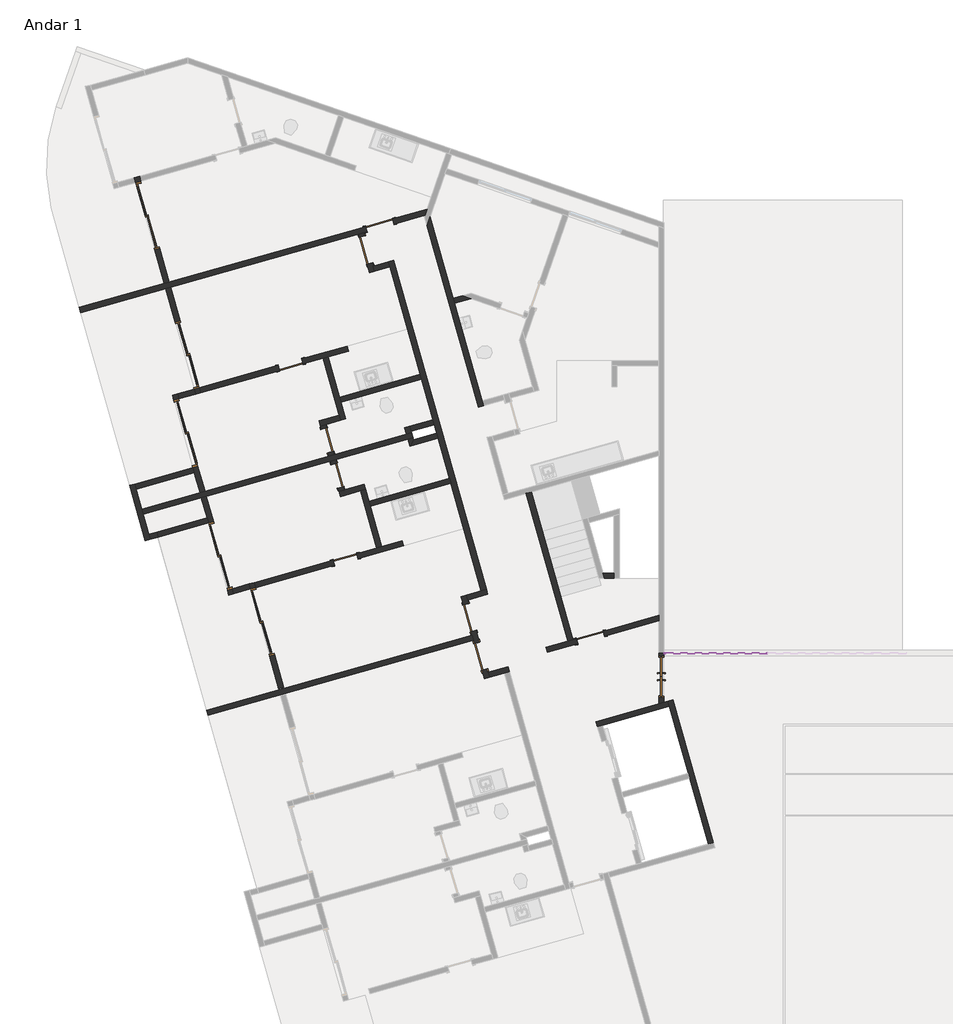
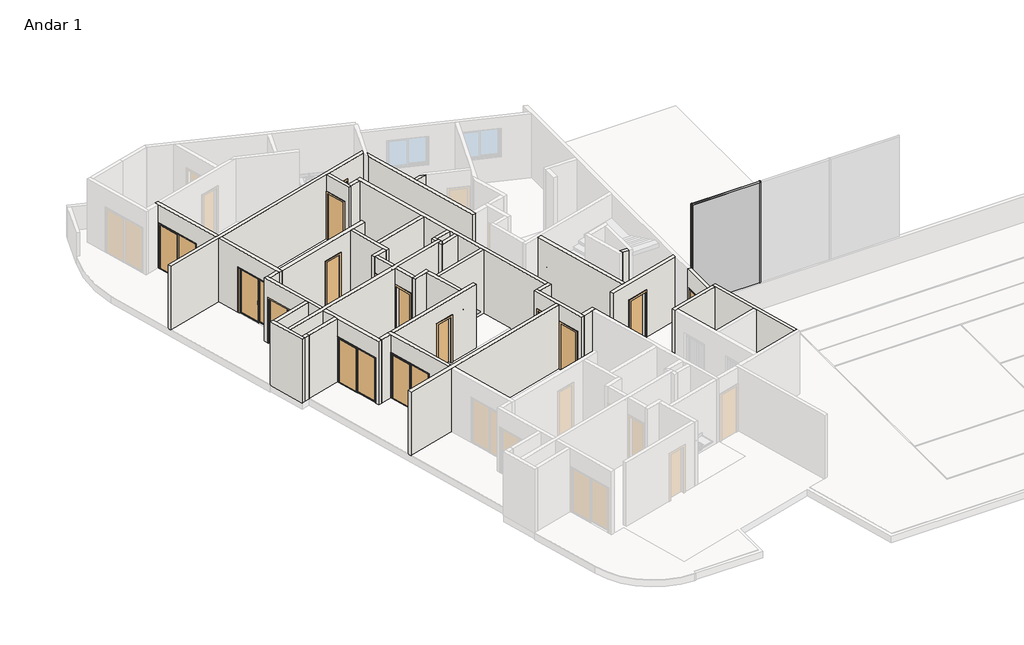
# One storey, part 2 of 4: 42 walls, 15 doors, 3 members, 1 plate.
"""IFC4 building model written with IfcOpenShell, lengths in millimetres."""

from ifc_helpers import new_model, si_unit, frame, origin, place, context, project, spatial, polyline, outline, extrude, faceted_brep, transform, mapped, element, save
from components import door_1_20_x_2_10_046a985c, p2_80cm_9d4be4ef, p2_80cm_083652d6, p3_70cm_ef4d15e3, p3_70cm_0a698c7c, p4_correr_200cm_eaaa0877, montante_retangular_montante_circular_86a469dc, montante_retangular_montante_circular_5da571e1, montante_retangular_montante_circular_c74c38fd, painel_do_sistema_adb62336

model = new_model("IFC4")

# Units and contexts
model_context = context("Model", 3, world=origin())
ifc_project = project(units=[si_unit("LENGTHUNIT", "METRE", prefix="MILLI")], contexts=[model_context])

# Site, building, storey
site = spatial("IfcSite", under=ifc_project)
building = spatial("IfcBuilding", under=site)
storey = spatial("IfcBuildingStorey", under=building, Name="Andar 1", Elevation=53650.0)

# Doors
placement = place(None, origin())
door_1_20_x_2_10_shape = door_1_20_x_2_10_046a985c(model_context)
element("IfcDoor", 1, ObjectType="Porta pivotante dupla sem revestimento : 1.20 x 2.10", at=placement, inside=storey, context=model_context, shape_type="MappedRepresentation", body=[
    mapped(door_1_20_x_2_10_shape, transform((-75072.8282189, 18002.5140353, 53650.0), x_axis=(0.0, -1.0, 0.0), y_axis=(1.0, 0.0, 0.0), z_axis=(0.0, 0.0, 1.0))),
])
p2_80cm_shape = p2_80cm_9d4be4ef(model_context)
element("IfcDoor", 2, ObjectType="M_Folha única1 : P2 - 80CM", at=placement, inside=storey, context=model_context, shape_type="MappedRepresentation", body=[
    mapped(p2_80cm_shape, transform((-83145.1128896, 30941.0402894, 53650.0), x_axis=(-0.9623628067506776, -0.2717679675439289, 0.0), y_axis=(0.2717679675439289, -0.9623628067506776, 0.0), z_axis=(0.0, 0.0, 1.0))),
])
element("IfcDoor", 3, ObjectType="M_Folha única1 : P2 - 80CM", at=placement, inside=storey, context=model_context, shape_type="MappedRepresentation", body=[
    mapped(p2_80cm_shape, transform((-80566.3456776, 19693.5423602, 53650.0), x_axis=(0.2717679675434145, -0.9623628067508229, 0.0), y_axis=(0.9623628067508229, 0.2717679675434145, 0.0), z_axis=(0.0, 0.0, 1.0))),
])
p2_80cm_2_shape = p2_80cm_083652d6(model_context)
element("IfcDoor", 4, ObjectType="M_Folha única1 : P2 - 80CM", at=placement, inside=storey, context=model_context, shape_type="MappedRepresentation", body=[
    mapped(p2_80cm_2_shape, transform((-83542.2049222, 30231.4150941, 53650.0), x_axis=(-0.2717679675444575, 0.9623628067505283, 0.0), y_axis=(-0.9623628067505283, -0.2717679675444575, 0.0), z_axis=(0.0, 0.0, 1.0))),
])
element("IfcDoor", 5, ObjectType="M_Folha única1 : P2 - 80CM", at=placement, inside=storey, context=model_context, shape_type="MappedRepresentation", body=[
    mapped(p2_80cm_2_shape, transform((-80253.8125149, 18586.8251325, 53650.0), x_axis=(-0.2717679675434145, 0.9623628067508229, 0.0), y_axis=(-0.9623628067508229, -0.2717679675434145, 0.0), z_axis=(0.0, 0.0, 1.0))),
])
p3_70cm_shape = p3_70cm_ef4d15e3(model_context)
element("IfcDoor", 6, ObjectType="M_Folha única1 : P3 - 70CM", at=placement, inside=storey, context=model_context, shape_type="MappedRepresentation", body=[
    mapped(p3_70cm_shape, transform((-84129.1775441, 21363.1168842, 53650.0), x_axis=(0.9623628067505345, 0.27176796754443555, 0.0), y_axis=(-0.27176796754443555, 0.9623628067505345, 0.0), z_axis=(0.0, 0.0, 1.0))),
])
element("IfcDoor", 7, ObjectType="M_Folha única1 : P3 - 70CM", at=placement, inside=storey, context=model_context, shape_type="MappedRepresentation", body=[
    mapped(p3_70cm_shape, transform((-84650.97864, 24774.7108835, 53650.0), x_axis=(0.2717679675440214, -0.9623628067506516, 0.0), y_axis=(0.9623628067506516, 0.2717679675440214, 0.0), z_axis=(0.0, 0.0, 1.0))),
])
p3_70cm_2_shape = p3_70cm_0a698c7c(model_context)
element("IfcDoor", 8, ObjectType="M_Folha única1 : P3 - 70CM", at=placement, inside=storey, context=model_context, shape_type="MappedRepresentation", body=[
    mapped(p3_70cm_2_shape, transform((-84365.6222741, 23764.2299364, 53650.0), x_axis=(-0.2717679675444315, 0.9623628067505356, 0.0), y_axis=(-0.9623628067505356, -0.2717679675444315, 0.0), z_axis=(0.0, 0.0, 1.0))),
])
element("IfcDoor", 9, ObjectType="M_Folha única1 : P3 - 70CM", at=placement, inside=storey, context=model_context, shape_type="MappedRepresentation", body=[
    mapped(p3_70cm_2_shape, transform((-85705.4317558, 26944.8211633, 53650.0), x_axis=(0.9623628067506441, 0.2717679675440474, 0.0), y_axis=(-0.2717679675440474, 0.9623628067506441, 0.0), z_axis=(0.0, 0.0, 1.0))),
])
p4_correr_200cm_shape = p4_correr_200cm_eaaa0877(model_context)
element("IfcDoor", 10, ObjectType="Porta de correr dupla envidraçada sem revestimento : P4 - CORRER - 200CM", at=placement, inside=storey, context=model_context, shape_type="MappedRepresentation", body=[
    mapped(p4_correr_200cm_shape, transform((-89799.7974026, 31217.9316171, 53650.0), x_axis=(0.27176796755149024, -0.9623628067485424, 0.0), y_axis=(0.9623628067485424, 0.27176796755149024, 0.0), z_axis=(0.0, 0.0, 1.0))),
])
element("IfcDoor", 11, ObjectType="Porta de correr dupla envidraçada sem revestimento : P4 - CORRER - 200CM", at=placement, inside=storey, context=model_context, shape_type="MappedRepresentation", body=[
    mapped(p4_correr_200cm_shape, transform((-88671.9603372, 27224.125969, 53650.0), x_axis=(-0.27176796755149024, 0.9623628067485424, 0.0), y_axis=(-0.9623628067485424, -0.27176796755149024, 0.0), z_axis=(0.0, 0.0, 1.0))),
])
element("IfcDoor", 12, ObjectType="Porta de correr dupla envidraçada sem revestimento : P4 - CORRER - 200CM", at=placement, inside=storey, context=model_context, shape_type="MappedRepresentation", body=[
    mapped(p4_correr_200cm_shape, transform((-86511.4049952, 19573.3416554, 53650.0), x_axis=(0.2717679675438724, -0.9623628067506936, 0.0), y_axis=(0.9623628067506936, 0.2717679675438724, 0.0), z_axis=(0.0, 0.0, 1.0))),
])
element("IfcDoor", 13, ObjectType="Porta de correr dupla envidraçada sem revestimento : P4 - CORRER - 200CM", at=placement, inside=storey, context=model_context, shape_type="MappedRepresentation", body=[
    mapped(p4_correr_200cm_shape, transform((-87717.4207223, 21466.8516126, 53650.0), x_axis=(0.2717679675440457, -0.9623628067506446, 0.0), y_axis=(0.9623628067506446, 0.2717679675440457, 0.0), z_axis=(0.0, 0.0, 1.0))),
])
element("IfcDoor", 14, ObjectType="Porta de correr dupla envidraçada sem revestimento : P4 - CORRER - 200CM", at=placement, inside=storey, context=model_context, shape_type="MappedRepresentation", body=[
    mapped(p4_correr_200cm_shape, transform((-88709.3738038, 24979.4758572, 53650.0), x_axis=(-0.2717679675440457, 0.9623628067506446, 0.0), y_axis=(-0.9623628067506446, -0.2717679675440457, 0.0), z_axis=(0.0, 0.0, 1.0))),
])
element("IfcDoor", 15, ObjectType="M_Folha única1 : PCF1 - 80CM", at=placement, inside=storey, context=model_context, shape_type="MappedRepresentation", body=[
    mapped(p2_80cm_shape, transform((-77103.5502958, 19127.1105693, 53650.0), x_axis=(-0.9623628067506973, -0.2717679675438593, 0.0), y_axis=(0.2717679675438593, -0.9623628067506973, 0.0), z_axis=(0.0, 0.0, 1.0))),
])

# Members
montante_retangular_montante_circular_shape = montante_retangular_montante_circular_86a469dc(model_context)
element("IfcMember", 16, ObjectType="Montante retangular : Montante Circular", at=placement, inside=storey, context=model_context, shape_type="MappedRepresentation", body=[
    mapped(montante_retangular_montante_circular_shape, transform((-72027.8282186, 18677.5140353, 54850.0), x_axis=(1.0, 0.0, 0.0), y_axis=(0.0, -1.0, 0.0), z_axis=(0.0, 0.0, -1.0))),
])
montante_retangular_montante_circular_2_shape = montante_retangular_montante_circular_5da571e1(model_context)
element("IfcMember", 17, ObjectType="Montante retangular : Montante Circular", at=placement, inside=storey, context=model_context, shape_type="MappedRepresentation", body=[
    mapped(montante_retangular_montante_circular_2_shape, transform((-74997.8282189, 18677.5140353, 59450.0), x_axis=(-1.0, 0.0, 0.0), y_axis=(0.0, -1.0, 0.0), z_axis=(0.0, 0.0, 1.0))),
])
montante_retangular_montante_circular_3_shape = montante_retangular_montante_circular_c74c38fd(model_context)
element("IfcMember", 18, ObjectType="Montante retangular : Montante Circular", at=placement, inside=storey, context=model_context, shape_type="MappedRepresentation", body=[
    mapped(montante_retangular_montante_circular_3_shape, transform((-72057.8282186, 18677.5140353, 59450.0), x_axis=(0.0, 0.0, 1.0), y_axis=(0.0, -1.0, 0.0), z_axis=(1.0, 0.0, 0.0))),
])

# Plate
painel_do_sistema_shape = painel_do_sistema_adb62336(model_context)
element("IfcPlate", 19, ObjectType="Painel do sistema : Gradil Alambrado", at=placement, inside=storey, context=model_context, shape_type="MappedRepresentation", body=[
    mapped(painel_do_sistema_shape, transform((-73497.8282187, 18677.5140353, 54850.0), x_axis=(1.0, 0.0, 0.0), y_axis=(0.0, 1.0, 0.0), z_axis=(0.0, 0.0, 1.0))),
])

# Walls
element("IfcWall", 20, ObjectType="Básica .15 -  Interna", at=placement, inside=storey, context=model_context, shape_type="Brep", body=[
    faceted_brep([(-82901.0804648, 29892.9118737, 53650.0), (-82860.3152697, 29748.5574527, 53650.0), (-81990.6577736, 26668.9964711, 53650.0), (-81949.8925784, 26524.6420501, 53650.0), (-81623.7710174, 25369.806682, 53650.0), (-81583.0058223, 25225.452261, 53650.0), (-81515.0638304, 24984.8615593, 53650.0), (-81474.2986352, 24840.5071383, 53650.0), (-81148.1770742, 23685.6717702, 53650.0), (-81107.4118791, 23541.3173492, 53650.0), (-80237.7543829, 20461.7563676, 53650.0), (-80237.7543829, 20461.7563676, 56550.0), (-81107.4118791, 23541.3173492, 56550.0), (-81148.1770742, 23685.6717702, 56550.0), (-81474.2986352, 24840.5071383, 56550.0), (-81515.0638304, 24984.8615593, 56550.0), (-81583.0058223, 25225.452261, 56550.0), (-81623.7710174, 25369.806682, 56550.0), (-81949.8925784, 26524.6420501, 56550.0), (-81990.6577736, 26668.9964711, 56550.0), (-82860.3152697, 29748.5574527, 56550.0), (-82901.0804648, 29892.9118737, 56550.0), (-82756.7260438, 29933.6770689, 53650.0), (-82756.7260438, 29933.6770689, 56550.0), (-80093.3999619, 20502.5215627, 56550.0), (-80093.3999619, 20502.5215627, 53650.0)], [[[0, 1, 2, 3, 4, 5, 6, 7, 8, 9, 10, 11, 12, 13, 14, 15, 16, 17, 18, 19, 20, 21]], [[22, 23, 24, 25]], [[10, 9, 8, 7, 6, 5, 4, 3, 2, 1, 0, 22, 25]], [[21, 20, 19, 18, 17, 16, 15, 14, 13, 12, 11, 24, 23]], [[0, 21, 23, 22]], [[11, 10, 25, 24]]]),
])
element("IfcWall", 21, ObjectType="Básica .15 -  Interna", at=placement, inside=storey, context=model_context, shape_type="Brep", body=[
    faceted_brep([(-83750.2661164, 30692.2138999, 53650.0), (-83723.0893197, 30595.9776193, 53650.0), (-83723.0893197, 30595.9776193, 55750.0), (-83505.6749457, 29826.0873739, 55750.0), (-83505.6749457, 29826.0873739, 53650.0), (-83437.7329538, 29585.4966722, 53650.0), (-83437.7329538, 29585.4966722, 56550.0), (-83750.2661164, 30692.2138999, 56550.0), (-83578.7348987, 30636.7428144, 55750.0), (-83578.7348987, 30636.7428144, 53650.0), (-83605.9116954, 30732.9790951, 53650.0), (-83605.9116954, 30732.9790951, 56550.0), (-83334.1437279, 29770.6162883, 56550.0), (-83293.3785328, 29626.2618673, 56550.0), (-83293.3785328, 29626.2618673, 53650.0), (-83334.1437279, 29770.6162883, 53650.0), (-83361.3205246, 29866.852569, 53650.0), (-83361.3205246, 29866.852569, 55750.0)], [[[0, 1, 2, 3, 4, 5, 6, 7]], [[8, 9, 10, 11, 12, 13, 14, 15, 16, 17]], [[10, 9, 1, 0]], [[16, 15, 14, 5, 4]], [[7, 6, 13, 12, 11]], [[6, 5, 14, 13]], [[0, 7, 11, 10]], [[2, 1, 9, 8]], [[3, 2, 8, 17]], [[4, 3, 17, 16]]]),
])
element("IfcWall", 22, ObjectType="Básica .15 -  Interna", at=placement, inside=storey, context=model_context, shape_type="SweptSolid", body=[
    extrude(outline(polyline([(-82860.3152697, 29748.5574527), (-83293.3785328, 29626.2618673), (-83334.1437279, 29770.6162883), (-82901.0804648, 29892.9118737), (-82860.3152697, 29748.5574527)])), frame((0.0, 0.0, 53650.0), z_axis=(0.0, 0.0, 1.0), x_axis=(1.0, 0.0, 0.0)), (0.0, 0.0, 1.0), 2900.0),
])
element("IfcWall", 23, ObjectType="Básica .15 -  Interna", at=placement, inside=storey, context=model_context, shape_type="Brep", body=[
    faceted_brep([(-80093.3999619, 20502.5215627, 53650.0), (-80237.7543829, 20461.7563676, 53650.0), (-80670.817646, 20339.4607822, 53650.0), (-80670.817646, 20339.4607822, 56550.0), (-80237.7543829, 20461.7563676, 56550.0), (-80093.3999619, 20502.5215627, 56550.0), (-80052.6347668, 20358.1671417, 53650.0), (-80052.6347668, 20358.1671417, 56550.0), (-80630.0524508, 20195.1063612, 56550.0), (-80630.0524508, 20195.1063612, 53650.0)], [[[0, 1, 2, 3, 4, 5]], [[6, 7, 8, 9]], [[2, 1, 0, 6, 9]], [[5, 4, 3, 8, 7]], [[3, 2, 9, 8]], [[0, 5, 7, 6]]]),
])
element("IfcWall", 24, ObjectType="Básica .15 -  Interna", at=placement, inside=storey, context=model_context, shape_type="Brep", body=[
    faceted_brep([(-80529.815701, 19288.21464, 53650.0), (-80502.6389043, 19191.9783593, 53650.0), (-80461.8737092, 19047.6239383, 53650.0), (-80434.6969124, 18951.3876576, 53650.0), (-80434.6969124, 18951.3876576, 55750.0), (-80217.2825384, 18181.4974122, 55750.0), (-80217.2825384, 18181.4974122, 53650.0), (-80149.3405465, 17940.9067105, 53650.0), (-80149.3405465, 17940.9067105, 56550.0), (-80461.8737092, 19047.6239383, 56550.0), (-80502.6389043, 19191.9783593, 56550.0), (-80815.172067, 20298.695587, 56550.0), (-80815.172067, 20298.695587, 53650.0), (-80747.2300751, 20058.1048854, 53650.0), (-80747.2300751, 20058.1048854, 55750.0), (-80529.815701, 19288.21464, 55750.0), (-80290.3424914, 18992.1528527, 55750.0), (-80290.3424914, 18992.1528527, 53650.0), (-80385.46128, 19328.9798351, 53650.0), (-80385.46128, 19328.9798351, 55750.0), (-80602.8756541, 20098.8700805, 55750.0), (-80602.8756541, 20098.8700805, 53650.0), (-80630.0524508, 20195.1063612, 53650.0), (-80670.817646, 20339.4607822, 53650.0), (-80670.817646, 20339.4607822, 56550.0), (-80630.0524508, 20195.1063612, 56550.0), (-80045.7513206, 18126.0263266, 56550.0), (-80004.9861255, 17981.6719056, 56550.0), (-80004.9861255, 17981.6719056, 53650.0), (-80045.7513206, 18126.0263266, 53650.0), (-80072.9281174, 18222.2626073, 53650.0), (-80072.9281174, 18222.2626073, 55750.0)], [[[0, 1, 2, 3, 4, 5, 6, 7, 8, 9, 10, 11, 12, 13, 14, 15]], [[16, 17, 18, 19, 20, 21, 22, 23, 24, 25, 26, 27, 28, 29, 30, 31]], [[13, 12, 23, 22, 21]], [[18, 17, 3, 2, 1, 0]], [[30, 29, 28, 7, 6]], [[11, 10, 9, 8, 27, 26, 25, 24]], [[12, 11, 24, 23]], [[8, 7, 28, 27]], [[19, 18, 0, 15]], [[20, 19, 15, 14]], [[21, 20, 14, 13]], [[4, 3, 17, 16]], [[5, 4, 16, 31]], [[6, 5, 31, 30]]]),
])
element("IfcWall", 25, ObjectType="Básica .15 -  Interna", at=placement, inside=storey, context=model_context, shape_type="Brep", body=[
    faceted_brep([(-80004.9861255, 17981.6719056, 53650.0), (-79571.9228624, 18103.967491, 53650.0), (-79427.5684414, 18144.7326862, 53650.0), (-79427.5684414, 18144.7326862, 56550.0), (-79571.9228624, 18103.967491, 56550.0), (-80004.9861255, 17981.6719056, 56550.0), (-80045.7513206, 18126.0263266, 53650.0), (-80045.7513206, 18126.0263266, 56550.0), (-79468.3336366, 18289.0871072, 56550.0), (-79468.3336366, 18289.0871072, 53650.0)], [[[0, 1, 2, 3, 4, 5]], [[6, 7, 8, 9]], [[2, 1, 0, 6, 9]], [[5, 4, 3, 8, 7]], [[3, 2, 9, 8]], [[0, 5, 7, 6]]]),
])
element("IfcWall", 26, ObjectType="Básica .15 -  Interna", at=placement, inside=storey, context=model_context, shape_type="Brep", body=[
    faceted_brep([(-86046.8404698, 17652.2925145, 53650.0), (-86046.8404698, 17652.2925145, 56550.0), (-86855.3501733, 20515.3218646, 56550.0), (-86896.1153684, 20659.6762856, 56550.0), (-86896.1153684, 20659.6762856, 53650.0), (-86855.3501733, 20515.3218646, 53650.0), (-86855.3501733, 20515.3218646, 55750.0), (-86311.8142382, 18590.596251, 55750.0), (-86311.8142382, 18590.596251, 53650.0), (-85902.4860488, 17693.0577096, 56550.0), (-85902.4860488, 17693.0577096, 53650.0), (-86167.4598172, 18631.3614462, 53650.0), (-86167.4598172, 18631.3614462, 55750.0), (-86710.9957523, 20556.0870597, 55750.0), (-86710.9957523, 20556.0870597, 53650.0), (-86751.7609474, 20700.4414807, 53650.0), (-86751.7609474, 20700.4414807, 56550.0), (-86710.9957523, 20556.0870597, 56550.0)], [[[0, 1, 2, 3, 4, 5, 6, 7, 8]], [[9, 10, 11, 12, 13, 14, 15, 16, 17]], [[10, 0, 8, 11]], [[4, 15, 14, 5]], [[1, 0, 10, 9]], [[3, 2, 1, 9, 17, 16]], [[4, 3, 16, 15]], [[7, 12, 11, 8]], [[12, 7, 6, 13]], [[13, 6, 5, 14]]]),
])
element("IfcWall", 27, ObjectType="Básica .15 -  Interna", at=placement, inside=storey, context=model_context, shape_type="Brep", body=[
    faceted_brep([(-88305.9570711, 23274.9583478, 56550.0), (-88469.0178517, 23852.3760319, 56550.0), (-88509.7830468, 23996.7304529, 56550.0), (-89094.084177, 26065.8104874, 56550.0), (-89094.084177, 26065.8104874, 53650.0), (-89053.3189819, 25921.4560664, 53650.0), (-89053.3189819, 25921.4560664, 55750.0), (-88509.7830468, 23996.7304529, 55750.0), (-88509.7830468, 23996.7304529, 53650.0), (-88469.0178517, 23852.3760319, 53650.0), (-88305.9570711, 23274.9583478, 53650.0), (-88949.729756, 26106.5756825, 56550.0), (-88908.9645609, 25962.2212615, 56550.0), (-88161.6026501, 23315.723543, 56550.0), (-88161.6026501, 23315.723543, 53650.0), (-88365.4286258, 24037.495648, 53650.0), (-88365.4286258, 24037.495648, 55750.0), (-88908.9645609, 25962.2212615, 55750.0), (-88908.9645609, 25962.2212615, 53650.0), (-88949.729756, 26106.5756825, 53650.0)], [[[0, 1, 2, 3, 4, 5, 6, 7, 8, 9, 10]], [[11, 12, 13, 14, 15, 16, 17, 18, 19]], [[4, 19, 18, 5]], [[14, 10, 9, 8, 15]], [[3, 2, 1, 0, 13, 12, 11]], [[4, 3, 11, 19]], [[0, 10, 14, 13]], [[17, 6, 5, 18]], [[6, 17, 16, 7]], [[7, 16, 15, 8]]]),
])
element("IfcWall", 28, ObjectType="Básica .15 -  Interna", at=placement, inside=storey, context=model_context, shape_type="Brep", body=[
    faceted_brep([(-89143.3190618, 29169.2341801, 56550.0), (-88328.0151592, 26282.1457598, 56550.0), (-88287.249964, 26137.7913388, 56550.0), (-88287.249964, 26137.7913388, 53650.0), (-88328.0151592, 26282.1457598, 53650.0), (-88328.0151592, 26282.1457598, 55750.0), (-88871.5510943, 28206.8713733, 55750.0), (-88871.5510943, 28206.8713733, 53650.0), (-89143.3190618, 29169.2341801, 53650.0), (-88431.604385, 26097.0261437, 56550.0), (-88472.3695802, 26241.3805647, 56550.0), (-89287.6734828, 29128.468985, 56550.0), (-89287.6734828, 29128.468985, 53650.0), (-89015.9055153, 28166.1061782, 53650.0), (-89015.9055153, 28166.1061782, 55750.0), (-88472.3695802, 26241.3805647, 55750.0), (-88472.3695802, 26241.3805647, 53650.0), (-88431.604385, 26097.0261437, 53650.0)], [[[0, 1, 2, 3, 4, 5, 6, 7, 8]], [[9, 10, 11, 12, 13, 14, 15, 16, 17]], [[3, 17, 16, 4]], [[12, 8, 7, 13]], [[2, 1, 0, 11, 10, 9]], [[3, 2, 9, 17]], [[0, 8, 12, 11]], [[6, 14, 13, 7]], [[14, 6, 5, 15]], [[15, 5, 4, 16]]]),
])
element("IfcWall", 29, ObjectType="Básica .15 -  Interna", at=placement, inside=storey, context=model_context, shape_type="Brep", body=[
    faceted_brep([(-74881.2508656, 17297.6610289, 53650.0), (-74840.4856705, 17153.3066079, 53650.0), (-74296.9497354, 15228.5809944, 53650.0), (-74256.1845402, 15084.2265734, 53650.0), (-73726.2370035, 13207.6191002, 53650.0), (-73726.2370035, 13207.6191002, 56550.0), (-74256.1845402, 15084.2265734, 56550.0), (-74296.9497354, 15228.5809944, 56550.0), (-74840.4856705, 17153.3066079, 56550.0), (-74881.2508656, 17297.6610289, 56550.0), (-74736.8964446, 17338.426224, 53650.0), (-74736.8964446, 17338.426224, 56550.0), (-73581.8825825, 13248.3842954, 56550.0), (-73581.8825825, 13248.3842954, 53650.0)], [[[0, 1, 2, 3, 4, 5, 6, 7, 8, 9]], [[10, 11, 12, 13]], [[4, 3, 2, 1, 0, 10, 13]], [[9, 8, 7, 6, 5, 12, 11]], [[5, 4, 13, 12]], [[0, 9, 11, 10]]]),
])
element("IfcWall", 30, ObjectType="Básica .15 -  Interna", at=placement, inside=storey, context=model_context, shape_type="Brep", body=[
    faceted_brep([(-76904.7538909, 16570.3643175, 53650.0), (-76760.3994699, 16611.1295126, 53650.0), (-74840.4856705, 17153.3066079, 53650.0), (-74840.4856705, 17153.3066079, 56550.0), (-76760.3994699, 16611.1295126, 56550.0), (-76904.7538909, 16570.3643175, 56550.0), (-76945.5190861, 16714.7187385, 53650.0), (-76945.5190861, 16714.7187385, 56550.0), (-75147.8282189, 17222.3804954, 56550.0), (-74997.8282189, 17264.7399828, 56550.0), (-74881.2508656, 17297.6610289, 56550.0), (-74881.2508656, 17297.6610289, 53650.0), (-74997.8282189, 17264.7399828, 53650.0), (-75147.8282189, 17222.3804954, 53650.0)], [[[0, 1, 2, 3, 4, 5]], [[6, 7, 8, 9, 10, 11, 12, 13]], [[2, 1, 0, 6, 13, 12, 11]], [[5, 4, 3, 10, 9, 8, 7]], [[0, 5, 7, 6]], [[3, 2, 11, 10]]]),
])
element("IfcWall", 31, ObjectType="Básica .15 -  Interna", at=placement, inside=storey, context=model_context, shape_type="SweptSolid", body=[
    extrude(outline(polyline([(-77749.4687652, 19022.6385875), (-78948.2127609, 23254.4051886), (-78803.8582924, 23295.1703972), (-77605.1142967, 19063.4037961), (-77749.4687652, 19022.6385875)])), frame((0.0, 0.0, 53650.0), z_axis=(0.0, 0.0, 1.0), x_axis=(1.0, 0.0, 0.0)), (0.0, 0.0, 1.0), 2900.0),
])
element("IfcWall", 32, ObjectType="Básica .15 -  Interna", at=placement, inside=storey, context=model_context, shape_type="Brep", body=[
    faceted_brep([(-77508.878016, 19090.5805928, 55750.0), (-77508.878016, 19090.5805928, 53650.0), (-77605.1142967, 19063.4037961, 53650.0), (-77749.4687652, 19022.6385875, 53650.0), (-78375.5945972, 18845.8227925, 53650.0), (-78375.5945972, 18845.8227925, 56550.0), (-77749.4687652, 19022.6385875, 56550.0), (-77605.1142967, 19063.4037961, 56550.0), (-75147.8282189, 19757.3329862, 56550.0), (-75147.8282189, 19757.3329862, 53650.0), (-76738.9877706, 19307.9949669, 53650.0), (-76738.9877706, 19307.9949669, 55750.0), (-78334.829402, 18701.4683715, 53650.0), (-77468.1128209, 18946.2261718, 53650.0), (-77468.1128209, 18946.2261718, 55750.0), (-76698.2225755, 19163.6405459, 55750.0), (-76698.2225755, 19163.6405459, 53650.0), (-75147.8282189, 19601.4666134, 53650.0), (-75147.8282189, 19601.4666134, 56550.0), (-78334.829402, 18701.4683715, 56550.0)], [[[0, 1, 2, 3, 4, 5, 6, 7, 8, 9, 10, 11]], [[12, 13, 14, 15, 16, 17, 18, 19]], [[10, 9, 17, 16]], [[4, 3, 2, 1, 13, 12]], [[5, 4, 12, 19]], [[8, 7, 6, 5, 19, 18]], [[14, 13, 1, 0]], [[15, 14, 0, 11]], [[16, 15, 11, 10]], [[9, 8, 18, 17]]]),
])
element("IfcWall", 33, ObjectType="Básica .15 -  Interna", at=placement, inside=storey, context=model_context, shape_type="Brep", body=[
    faceted_brep([(-81789.2550074, 30934.0017027, 53650.0), (-80318.2667662, 25725.0567879, 53650.0), (-80318.2667662, 25725.0567879, 56550.0), (-81789.2550074, 30934.0017027, 56550.0), (-81703.3880158, 31181.8778654, 53650.0), (-81703.3880158, 31181.8778654, 56550.0), (-81045.1503443, 28850.9797144, 56550.0), (-81004.3851492, 28706.6252933, 56550.0), (-80214.6775403, 25910.176404, 56550.0), (-80173.9123452, 25765.821983, 56550.0), (-80173.9123452, 25765.821983, 53650.0), (-80214.6775403, 25910.176404, 53650.0), (-81004.3851492, 28706.6252933, 53650.0), (-81045.1503443, 28850.9797144, 53650.0)], [[[0, 1, 2, 3]], [[4, 5, 6, 7, 8, 9, 10, 11, 12, 13]], [[1, 0, 4, 13, 12, 11, 10]], [[3, 2, 9, 8, 7, 6, 5]], [[0, 3, 5, 4]], [[2, 1, 10, 9]]]),
])
element("IfcWall", 34, ObjectType="Básica .15 - Externa", at=placement, inside=storey, context=model_context, shape_type="Brep", body=[
    faceted_brep([(-89732.866261, 21936.8058326, 53650.0), (-89773.6314561, 22081.1602536, 53650.0), (-89936.6922366, 22658.5779377, 53650.0), (-89977.4574318, 22802.9323587, 53650.0), (-90140.5182123, 23380.3500428, 53650.0), (-90181.2834074, 23524.7044638, 53650.0), (-90181.2834074, 23524.7044638, 56550.0), (-90140.5182123, 23380.3500428, 56550.0), (-89977.4574318, 22802.9323587, 56550.0), (-89936.6922366, 22658.5779377, 56550.0), (-89773.6314561, 22081.1602536, 56550.0), (-89732.866261, 21936.8058326, 56550.0), (-89877.220682, 21896.0406375, 53650.0), (-89877.220682, 21896.0406375, 56550.0), (-90325.6378284, 23483.9392686, 56550.0), (-90325.6378284, 23483.9392686, 53650.0)], [[[0, 1, 2, 3, 4, 5, 6, 7, 8, 9, 10, 11]], [[12, 13, 14, 15]], [[5, 4, 3, 2, 1, 0, 12, 15]], [[11, 10, 9, 8, 7, 6, 14, 13]], [[0, 11, 13, 12]], [[6, 5, 15, 14]]]),
])
element("IfcWall", 35, ObjectType="Básica .15 -  Interna", at=placement, inside=storey, context=model_context, shape_type="Brep", body=[
    faceted_brep([(-88102.1310955, 22553.1862428, 53650.0), (-89549.4965332, 22144.4551899, 53650.0), (-89549.4965332, 22144.4551899, 56550.0), (-88102.1310955, 22553.1862428, 56550.0), (-88061.3659003, 22408.8318218, 53650.0), (-88061.3659003, 22408.8318218, 55750.0), (-88061.3659003, 22408.8318218, 56550.0), (-89508.731338, 22000.1007688, 56550.0), (-89508.731338, 22000.1007688, 53650.0)], [[[0, 1, 2, 3]], [[4, 5, 6, 7, 8]], [[1, 0, 4, 8]], [[2, 1, 8, 7]], [[3, 2, 7, 6]], [[0, 3, 6, 5, 4]]]),
])
element("IfcWall", 36, ObjectType="Básica .15 -  Interna", at=placement, inside=storey, context=model_context, shape_type="Brep", body=[
    faceted_brep([(-90140.5182123, 23380.3500428, 53650.0), (-88469.0178517, 23852.3760319, 53650.0), (-88469.0178517, 23852.3760319, 56550.0), (-90140.5182123, 23380.3500428, 56550.0), (-90181.2834074, 23524.7044638, 53650.0), (-90181.2834074, 23524.7044638, 56550.0), (-88509.7830468, 23996.7304529, 56550.0), (-88509.7830468, 23996.7304529, 55750.0), (-88509.7830468, 23996.7304529, 53650.0)], [[[0, 1, 2, 3]], [[4, 5, 6, 7, 8]], [[1, 0, 4, 8]], [[3, 2, 6, 5]], [[0, 3, 5, 4]], [[2, 1, 8, 7, 6]]]),
])
element("IfcWall", 37, ObjectType="Básica .15 -  Interna", at=placement, inside=storey, context=model_context, shape_type="Brep", body=[
    faceted_brep([(-86896.1153684, 20659.6762856, 53650.0), (-87373.4755442, 20524.8714034, 53650.0), (-87373.4755442, 20524.8714034, 55750.0), (-87373.4755442, 20524.8714034, 56550.0), (-86896.1153684, 20659.6762856, 56550.0), (-86855.3501733, 20515.3218646, 53650.0), (-86855.3501733, 20515.3218646, 55750.0), (-86855.3501733, 20515.3218646, 56550.0), (-87332.7103491, 20380.5169824, 56550.0), (-87332.7103491, 20380.5169824, 53650.0)], [[[0, 1, 2, 3, 4]], [[5, 6, 7, 8, 9]], [[1, 0, 5, 9]], [[4, 3, 8, 7]], [[0, 4, 7, 6, 5]], [[3, 2, 1, 9, 8]]]),
])
element("IfcWall", 38, ObjectType="Básica .15 -  Interna", at=placement, inside=storey, context=model_context, shape_type="Brep", body=[
    faceted_brep([(-88908.9645609, 25962.2212615, 53650.0), (-88431.604385, 26097.0261437, 53650.0), (-88431.604385, 26097.0261437, 56550.0), (-88908.9645609, 25962.2212615, 56550.0), (-88908.9645609, 25962.2212615, 55750.0), (-88949.729756, 26106.5756825, 53650.0), (-88949.729756, 26106.5756825, 56550.0), (-88472.3695802, 26241.3805647, 56550.0), (-88472.3695802, 26241.3805647, 53650.0)], [[[0, 1, 2, 3, 4]], [[5, 6, 7, 8]], [[1, 0, 5, 8]], [[3, 2, 7, 6]], [[0, 4, 3, 6, 5]], [[2, 1, 8, 7]]]),
])
element("IfcWall", 39, ObjectType="Básica .15 -  Interna", at=placement, inside=storey, context=model_context, shape_type="Brep", body=[
    faceted_brep([(-91725.2428613, 28440.1077234, 53650.0), (-89287.6734828, 29128.468985, 53650.0), (-89143.3190618, 29169.2341801, 53650.0), (-83750.2661164, 30692.2138999, 53650.0), (-83605.9116954, 30732.9790951, 53650.0), (-83509.6754148, 30760.1558918, 53650.0), (-83509.6754148, 30760.1558918, 55750.0), (-82739.7851694, 30977.5702659, 55750.0), (-82739.7851694, 30977.5702659, 53650.0), (-81845.4155775, 31230.1371819, 53650.0), (-81845.4155775, 31230.1371819, 56550.0), (-83605.9116954, 30732.9790951, 56550.0), (-83750.2661164, 30692.2138999, 56550.0), (-89143.3190618, 29169.2341801, 56550.0), (-89287.6734828, 29128.468985, 56550.0), (-91725.2428613, 28440.1077234, 56550.0), (-83550.4406099, 30904.5103128, 55750.0), (-83550.4406099, 30904.5103128, 53650.0), (-89184.084257, 29313.5886011, 53650.0), (-89328.438678, 29272.823406, 53650.0), (-91766.0080564, 28584.4621444, 53650.0), (-91766.0080564, 28584.4621444, 56550.0), (-89328.438678, 29272.823406, 56550.0), (-89184.084257, 29313.5886011, 56550.0), (-81785.5670817, 31402.9045654, 56550.0), (-81785.5670817, 31402.9045654, 53650.0), (-82780.5503645, 31121.9246869, 53650.0), (-82780.5503645, 31121.9246869, 55750.0)], [[[0, 1, 2, 3, 4, 5, 6, 7, 8, 9, 10, 11, 12, 13, 14, 15]], [[16, 17, 18, 19, 20, 21, 22, 23, 24, 25, 26, 27]], [[26, 25, 9, 8]], [[20, 19, 18, 17, 5, 4, 3, 2, 1, 0]], [[15, 14, 13, 12, 11, 10, 24, 23, 22, 21]], [[0, 15, 21, 20]], [[10, 9, 25, 24]], [[6, 5, 17, 16]], [[7, 6, 16, 27]], [[8, 7, 27, 26]]]),
])
element("IfcWall", 40, ObjectType="Básica .15 -  Interna", at=placement, inside=storey, context=model_context, shape_type="Brep", body=[
    faceted_brep([(-90040.1533547, 32345.0314424, 56550.0), (-89999.3881596, 32200.6770214, 56550.0), (-89184.084257, 29313.5886011, 56550.0), (-89184.084257, 29313.5886011, 53650.0), (-89455.8522245, 30275.9514079, 53650.0), (-89455.8522245, 30275.9514079, 55750.0), (-89999.3881596, 32200.6770214, 55750.0), (-89999.3881596, 32200.6770214, 53650.0), (-90040.1533547, 32345.0314424, 53650.0), (-89328.438678, 29272.823406, 56550.0), (-90143.7425806, 32159.9118263, 56550.0), (-90184.5077758, 32304.2662473, 56550.0), (-90184.5077758, 32304.2662473, 53650.0), (-90143.7425806, 32159.9118262, 53650.0), (-90143.7425806, 32159.9118262, 55750.0), (-89600.2066455, 30235.1862128, 55750.0), (-89600.2066455, 30235.1862128, 53650.0), (-89328.438678, 29272.823406, 53650.0)], [[[0, 1, 2, 3, 4, 5, 6, 7, 8]], [[9, 10, 11, 12, 13, 14, 15, 16, 17]], [[12, 8, 7, 13]], [[3, 17, 16, 4]], [[2, 1, 0, 11, 10, 9]], [[0, 8, 12, 11]], [[3, 2, 9, 17]], [[15, 5, 4, 16]], [[5, 15, 14, 6]], [[6, 14, 13, 7]]]),
])
element("IfcWall", 41, ObjectType="Básica .15 -  Interna", at=placement, inside=storey, context=model_context, shape_type="Brep", body=[
    faceted_brep([(-89936.6922366, 22658.5779377, 53650.0), (-88265.191876, 23130.6039268, 53650.0), (-88120.837455, 23171.369122, 53650.0), (-84560.09507, 24176.9106019, 53650.0), (-84415.740649, 24217.675797, 53650.0), (-82192.6825654, 24845.459802, 53650.0), (-82192.6825654, 24845.459802, 56550.0), (-84415.740649, 24217.675797, 56550.0), (-84560.09507, 24176.9106019, 56550.0), (-88120.837455, 23171.369122, 56550.0), (-88265.191876, 23130.6039268, 56550.0), (-89936.6922366, 22658.5779377, 56550.0), (-89977.4574318, 22802.9323587, 53650.0), (-89977.4574318, 22802.9323587, 56550.0), (-88305.9570711, 23274.9583478, 56550.0), (-88161.6026501, 23315.723543, 56550.0), (-84600.8602651, 24321.2650229, 56550.0), (-84456.5058441, 24362.030218, 56550.0), (-82233.4477605, 24989.814223, 56550.0), (-82233.4477605, 24989.814223, 53650.0), (-84456.5058441, 24362.030218, 53650.0), (-84600.8602651, 24321.2650229, 53650.0), (-88161.6026501, 23315.723543, 53650.0), (-88305.9570711, 23274.9583478, 53650.0)], [[[0, 1, 2, 3, 4, 5, 6, 7, 8, 9, 10, 11]], [[12, 13, 14, 15, 16, 17, 18, 19, 20, 21, 22, 23]], [[5, 4, 3, 2, 1, 0, 12, 23, 22, 21, 20, 19]], [[6, 5, 19, 18]], [[11, 10, 9, 8, 7, 6, 18, 17, 16, 15, 14, 13]], [[0, 11, 13, 12]]]),
])
element("IfcWall", 42, ObjectType="Básica .15 -  Interna", at=placement, inside=storey, context=model_context, shape_type="Brep", body=[
    faceted_brep([(-87477.0647701, 20339.7517872, 56550.0), (-88061.3659003, 22408.8318218, 56550.0), (-88102.1310955, 22553.1862428, 56550.0), (-88265.191876, 23130.6039268, 56550.0), (-88265.191876, 23130.6039268, 53650.0), (-88102.1310955, 22553.1862428, 53650.0), (-88061.3659003, 22408.8318218, 53650.0), (-88061.3659003, 22408.8318218, 55750.0), (-87517.8299653, 20484.1062083, 55750.0), (-87517.8299653, 20484.1062083, 53650.0), (-87477.0647701, 20339.7517872, 53650.0), (-88120.837455, 23171.369122, 56550.0), (-87373.4755442, 20524.8714034, 56550.0), (-87332.7103491, 20380.5169824, 56550.0), (-87332.7103491, 20380.5169824, 53650.0), (-87373.4755442, 20524.8714034, 53650.0), (-87373.4755442, 20524.8714034, 55750.0), (-87917.0114793, 22449.5970169, 55750.0), (-87917.0114793, 22449.5970169, 53650.0), (-88120.837455, 23171.369122, 53650.0)], [[[0, 1, 2, 3, 4, 5, 6, 7, 8, 9, 10]], [[11, 12, 13, 14, 15, 16, 17, 18, 19]], [[14, 10, 9, 15]], [[4, 19, 18, 6, 5]], [[3, 2, 1, 0, 13, 12, 11]], [[0, 10, 14, 13]], [[4, 3, 11, 19]], [[8, 16, 15, 9]], [[16, 8, 7, 17]], [[17, 7, 6, 18]]]),
])
element("IfcWall", 43, ObjectType="Básica .15 -  Interna", at=placement, inside=storey, context=model_context, shape_type="SweptSolid", body=[
    extrude(outline(polyline([(-80461.8737092, 19047.6239383), (-88068.36111, 16899.5778931), (-88109.1263052, 17043.9323141), (-80502.6389043, 19191.9783593), (-80461.8737092, 19047.6239383)])), frame((0.0, 0.0, 53650.0), z_axis=(0.0, 0.0, 1.0), x_axis=(1.0, 0.0, 0.0)), (0.0, 0.0, 1.0), 2900.0),
])
element("IfcWall", 44, ObjectType="Básica .15 - Externa", at=placement, inside=storey, context=model_context, shape_type="SweptSolid", body=[
    extrude(outline(polyline([(-89773.6314561, 22081.1602536), (-89549.4965332, 22144.4551899), (-89508.731338, 22000.1007688), (-89732.866261, 21936.8058326), (-89773.6314561, 22081.1602536)])), frame((0.0, 0.0, 53650.0), z_axis=(0.0, 0.0, 1.0), x_axis=(1.0, 0.0, 0.0)), (0.0, 0.0, 1.0), 2900.0),
])
element("IfcWall", 45, ObjectType="Básica .15 -  Interna", at=placement, inside=storey, context=model_context, shape_type="SweptSolid", body=[
    extrude(outline(polyline([(-82179.094167, 24797.3416617), (-81515.0638304, 24984.8615593), (-81474.2986352, 24840.5071383), (-82282.6833929, 24612.2220455), (-82179.094167, 24797.3416617)])), frame((0.0, 0.0, 53650.0), z_axis=(0.0, 0.0, 1.0), x_axis=(1.0, 0.0, 0.0)), (0.0, 0.0, 1.0), 2900.0),
])
element("IfcWall", 46, ObjectType="Básica .15 -  Interna", at=placement, inside=storey, context=model_context, shape_type="SweptSolid", body=[
    extrude(outline(polyline([(-82192.6825654, 24845.459802), (-82179.094167, 24797.3416617), (-82282.6833929, 24612.2220455), (-82337.0369864, 24804.6946069), (-82192.6825654, 24845.459802)])), frame((0.0, 0.0, 53650.0), z_axis=(0.0, 0.0, 1.0), x_axis=(1.0, 0.0, 0.0)), (0.0, 0.0, 1.0), 2900.0),
])
element("IfcWall", 47, ObjectType="Básica .15 -  Interna", at=placement, inside=storey, context=model_context, shape_type="Brep", body=[
    faceted_brep([(-83593.7317942, 23514.6100515, 53650.0), (-84171.1494782, 23351.5492709, 53650.0), (-84315.5038992, 23310.7840758, 53650.0), (-84315.5038992, 23310.7840758, 56550.0), (-84171.1494782, 23351.5492709, 56550.0), (-83593.7317942, 23514.6100515, 56550.0), (-83552.966599, 23370.2556304, 53650.0), (-83552.966599, 23370.2556304, 56550.0), (-83697.32102, 23329.4904353, 56550.0), (-84274.7387041, 23166.4296548, 56550.0), (-84274.7387041, 23166.4296548, 53650.0), (-83697.32102, 23329.4904353, 53650.0)], [[[0, 1, 2, 3, 4, 5]], [[6, 7, 8, 9, 10, 11]], [[2, 1, 0, 6, 11, 10]], [[5, 4, 3, 9, 8, 7]], [[0, 5, 7, 6]], [[3, 2, 10, 9]]]),
])
element("IfcWall", 48, ObjectType="Básica .15 -  Interna", at=placement, inside=storey, context=model_context, shape_type="Brep", body=[
    faceted_brep([(-83090.9610542, 21734.238859, 53650.0), (-83417.0826153, 22889.0742271, 53650.0), (-83457.8478104, 23033.4286481, 53650.0), (-83552.966599, 23370.2556304, 53650.0), (-83552.966599, 23370.2556304, 56550.0), (-83457.8478104, 23033.4286481, 56550.0), (-83417.0826153, 22889.0742271, 56550.0), (-83090.9610542, 21734.238859, 56550.0), (-83235.3154752, 21693.4736638, 53650.0), (-83235.3154752, 21693.4736638, 56550.0), (-83697.32102, 23329.4904353, 56550.0), (-83697.32102, 23329.4904353, 53650.0)], [[[0, 1, 2, 3, 4, 5, 6, 7]], [[8, 9, 10, 11]], [[3, 2, 1, 0, 8, 11]], [[7, 6, 5, 4, 10, 9]], [[0, 7, 9, 8]], [[4, 3, 11, 10]]]),
])
element("IfcWall", 49, ObjectType="Básica .15 -  Interna", at=placement, inside=storey, context=model_context, shape_type="SweptSolid", body=[
    extrude(outline(polyline([(-83457.8478104, 23033.4286481), (-81148.1770742, 23685.6717702), (-81107.4118791, 23541.3173492), (-83417.0826153, 22889.0742271), (-83457.8478104, 23033.4286481)])), frame((0.0, 0.0, 53650.0), z_axis=(0.0, 0.0, 1.0), x_axis=(1.0, 0.0, 0.0)), (0.0, 0.0, 1.0), 2900.0),
])
element("IfcWall", 50, ObjectType="Básica .15 -  Interna", at=placement, inside=storey, context=model_context, shape_type="Brep", body=[
    faceted_brep([(-82513.5433702, 21897.2996395, 53650.0), (-83090.9610542, 21734.238859, 53650.0), (-83235.3154752, 21693.4736638, 53650.0), (-83812.7331593, 21530.4128833, 53650.0), (-83812.7331593, 21530.4128833, 55750.0), (-84486.387124, 21340.175306, 55750.0), (-84486.387124, 21340.175306, 53650.0), (-86751.7609474, 20700.4414807, 53650.0), (-86751.7609474, 20700.4414807, 56550.0), (-83235.3154752, 21693.4736638, 56550.0), (-83090.9610542, 21734.238859, 56550.0), (-82513.5433702, 21897.2996395, 56550.0), (-83771.9679641, 21386.0584623, 55750.0), (-83771.9679641, 21386.0584623, 53650.0), (-82472.778175, 21752.9452185, 53650.0), (-82472.778175, 21752.9452185, 56550.0), (-86710.9957523, 20556.0870597, 56550.0), (-86710.9957523, 20556.0870597, 55750.0), (-86710.9957523, 20556.0870597, 53650.0), (-84445.6219289, 21195.820885, 53650.0), (-84445.6219289, 21195.820885, 55750.0)], [[[0, 1, 2, 3, 4, 5, 6, 7, 8, 9, 10, 11]], [[12, 13, 14, 15, 16, 17, 18, 19, 20]], [[19, 18, 7, 6]], [[14, 13, 3, 2, 1, 0]], [[11, 10, 9, 8, 16, 15]], [[0, 11, 15, 14]], [[4, 3, 13, 12]], [[5, 4, 12, 20]], [[6, 5, 20, 19]], [[8, 7, 18, 17, 16]]]),
])
element("IfcWall", 51, ObjectType="Básica .15 -  Interna", at=placement, inside=storey, context=model_context, shape_type="SweptSolid", body=[
    extrude(outline(polyline([(150.0, 0.0), (250.0, 0.0), (250.0, -2100.0), (950.0, -2100.0), (950.0, 0.0), (1050.0, 0.0), (1050.0, -2900.0), (150.0, -2900.0), (150.0, 0.0)])), frame((-84600.8602651, 24321.2650229, 53650.0), z_axis=(0.9623628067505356, 0.2717679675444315, 0.0), x_axis=(0.2717679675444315, -0.9623628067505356, 0.0)), (0.0, 0.0, 1.0), 150.0),
])
element("IfcWall", 52, ObjectType="Básica .15 -  Interna", at=placement, inside=storey, context=model_context, shape_type="Brep", body=[
    faceted_brep([(-84770.8044918, 27130.823522, 53650.0), (-84308.798947, 25494.8067505, 53650.0), (-84268.0337519, 25350.4523295, 53650.0), (-84268.0337519, 25350.4523295, 56550.0), (-84308.798947, 25494.8067505, 56550.0), (-84770.8044918, 27130.823522, 56550.0), (-84626.4500708, 27171.5887171, 53650.0), (-84626.4500708, 27171.5887171, 56550.0), (-84300.3285098, 26016.753349, 56550.0), (-84259.5633146, 25872.398928, 56550.0), (-84123.6793309, 25391.2175246, 56550.0), (-84123.6793309, 25391.2175246, 53650.0), (-84259.5633146, 25872.398928, 53650.0), (-84300.3285098, 26016.753349, 53650.0)], [[[0, 1, 2, 3, 4, 5]], [[6, 7, 8, 9, 10, 11, 12, 13]], [[2, 1, 0, 6, 13, 12, 11]], [[5, 4, 3, 10, 9, 8, 7]], [[3, 2, 11, 10]], [[0, 5, 7, 6]]]),
])
element("IfcWall", 53, ObjectType="Básica .15 -  Interna", at=placement, inside=storey, context=model_context, shape_type="SweptSolid", body=[
    extrude(outline(polyline([(-84300.3285098, 26016.753349), (-81990.6577736, 26668.9964711), (-81949.8925784, 26524.6420501), (-84259.5633146, 25872.398928), (-84300.3285098, 26016.753349)])), frame((0.0, 0.0, 53650.0), z_axis=(0.0, 0.0, 1.0), x_axis=(1.0, 0.0, 0.0)), (0.0, 0.0, 1.0), 2900.0),
])
element("IfcWall", 54, ObjectType="Básica .15 -  Interna", at=placement, inside=storey, context=model_context, shape_type="Brep", body=[
    faceted_brep([(-84308.798947, 25494.8067505, 53650.0), (-84886.2166311, 25331.74597, 53650.0), (-84886.2166311, 25331.74597, 56550.0), (-84308.798947, 25494.8067505, 56550.0), (-84268.0337519, 25350.4523295, 53650.0), (-84268.0337519, 25350.4523295, 56550.0), (-84701.0970149, 25228.1567441, 56550.0), (-84845.4514359, 25187.391549, 56550.0), (-84845.4514359, 25187.391549, 53650.0), (-84701.0970149, 25228.1567441, 53650.0)], [[[0, 1, 2, 3]], [[4, 5, 6, 7, 8, 9]], [[1, 0, 4, 9, 8]], [[3, 2, 7, 6, 5]], [[2, 1, 8, 7]], [[0, 3, 5, 4]]]),
])
element("IfcWall", 55, ObjectType="Básica .15 -  Interna", at=placement, inside=storey, context=model_context, shape_type="SweptSolid", body=[
    extrude(outline(polyline([(800.0, -2100.0), (800.0, 0.0), (900.0, 0.0), (900.0, -2900.0), (0.0, -2900.0), (0.0, 0.0), (100.0, 0.0), (100.0, -2100.0), (800.0, -2100.0)])), frame((-84845.4514359, 25187.391549, 53650.0), z_axis=(0.9623628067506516, 0.2717679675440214, 0.0), x_axis=(0.2717679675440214, -0.9623628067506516, 0.0)), (0.0, 0.0, 1.0), 150.0),
])
element("IfcWall", 56, ObjectType="Básica .15 -  Interna", at=placement, inside=storey, context=model_context, shape_type="Brep", body=[
    faceted_brep([(-82432.1557751, 25141.5215893, 53650.0), (-82377.8021816, 24949.0490279, 53650.0), (-82377.8021816, 24949.0490279, 56550.0), (-82432.1557751, 25141.5215893, 56550.0), (-82287.801354, 25182.2867844, 53650.0), (-82287.801354, 25182.2867844, 56550.0), (-82247.0361589, 25037.9323634, 56550.0), (-82233.4477605, 24989.814223, 56550.0), (-82233.4477605, 24989.814223, 53650.0), (-82247.0361589, 25037.9323634, 53650.0)], [[[0, 1, 2, 3]], [[4, 5, 6, 7, 8, 9]], [[1, 0, 4, 9, 8]], [[2, 1, 8, 7]], [[3, 2, 7, 6, 5]], [[0, 3, 5, 4]]]),
])
element("IfcWall", 57, ObjectType="Básica .15 -  Interna", at=placement, inside=storey, context=model_context, shape_type="SweptSolid", body=[
    extrude(outline(polyline([(-81583.0058223, 25225.452261), (-82247.0361589, 25037.9323634), (-82287.801354, 25182.2867844), (-81623.7710174, 25369.806682), (-81583.0058223, 25225.452261)])), frame((0.0, 0.0, 53650.0), z_axis=(0.0, 0.0, 1.0), x_axis=(1.0, 0.0, 0.0)), (0.0, 0.0, 1.0), 2900.0),
])
element("IfcWall", 58, ObjectType="Básica .15 -  Interna", at=placement, inside=storey, context=model_context, shape_type="SweptSolid", body=[
    extrude(outline(polyline([(-81045.1503443, 28850.9797144), (-80778.126122, 28926.3864421), (-80530.2499593, 28840.5194505), (-81004.3851492, 28706.6252933), (-81045.1503443, 28850.9797144)])), frame((0.0, 0.0, 53650.0), z_axis=(0.0, 0.0, 1.0), x_axis=(1.0, 0.0, 0.0)), (0.0, 0.0, 1.0), 2900.0),
])
element("IfcWall", 59, ObjectType="Básica .15 -  Interna", at=placement, inside=storey, context=model_context, shape_type="Brep", body=[
    faceted_brep([(-85348.2221759, 26967.7627414, 55750.0), (-85348.2221759, 26967.7627414, 53650.0), (-84770.8044918, 27130.823522, 53650.0), (-84626.4500708, 27171.5887171, 53650.0), (-84049.0323868, 27334.6494976, 53650.0), (-84049.0323868, 27334.6494976, 56550.0), (-84626.4500708, 27171.5887171, 56550.0), (-84770.8044918, 27130.823522, 56550.0), (-88287.249964, 26137.7913388, 56550.0), (-88287.249964, 26137.7913388, 53650.0), (-86021.8761406, 26777.5251642, 53650.0), (-86021.8761406, 26777.5251642, 55750.0), (-84089.7975819, 27479.0039186, 53650.0), (-85388.987371, 27112.1171625, 53650.0), (-85388.987371, 27112.1171625, 55750.0), (-86062.6413357, 26921.8795852, 55750.0), (-86062.6413357, 26921.8795852, 53650.0), (-88328.0151592, 26282.1457598, 53650.0), (-88328.0151592, 26282.1457598, 56550.0), (-84089.7975819, 27479.0039186, 56550.0)], [[[0, 1, 2, 3, 4, 5, 6, 7, 8, 9, 10, 11]], [[12, 13, 14, 15, 16, 17, 18, 19]], [[10, 9, 17, 16]], [[4, 3, 2, 1, 13, 12]], [[5, 4, 12, 19]], [[8, 7, 6, 5, 19, 18]], [[16, 15, 11, 10]], [[15, 14, 0, 11]], [[14, 13, 1, 0]], [[9, 8, 18, 17]]]),
])
element("IfcWall", 60, ObjectType="Básica .15 -  Interna", at=placement, inside=storey, context=model_context, shape_type="SweptSolid", body=[
    extrude(outline(polyline([(-76745.9449092, 20969.1154254), (-76425.2862396, 20969.1154254), (-76425.2862396, 20819.1154254), (-76703.5854218, 20819.1154254), (-76745.9449092, 20969.1154254)])), frame((0.0, 0.0, 53650.0), z_axis=(0.0, 0.0, 1.0), x_axis=(1.0, 0.0, 0.0)), (0.0, 0.0, 1.0), 2900.0),
])
element("IfcWall", 61, ObjectType="Básica .15 -  Interna", at=placement, inside=storey, context=model_context, shape_type="Brep", body=[
    faceted_brep([(-75147.8282189, 17222.3804954, 56550.0), (-75147.8282189, 18677.5140353, 56550.0), (-75147.8282189, 18677.5140353, 54850.0), (-75147.8282189, 18602.5140353, 54850.0), (-75147.8282189, 18602.5140353, 55750.0), (-75147.8282189, 17402.5140353, 55750.0), (-75147.8282189, 17402.5140353, 53650.0), (-75147.8282189, 17222.3804954, 53650.0), (-74997.8282189, 18677.5140353, 56550.0), (-74997.8282189, 17264.7399828, 56550.0), (-74997.8282189, 17264.7399828, 53650.0), (-74997.8282189, 17402.5140353, 53650.0), (-74997.8282189, 17402.5140353, 55750.0), (-74997.8282189, 18602.5140353, 55750.0), (-74997.8282189, 18602.5140353, 54850.0), (-74997.8282189, 18677.5140353, 54850.0)], [[[0, 1, 2, 3, 4, 5, 6, 7]], [[8, 9, 10, 11, 12, 13, 14, 15]], [[10, 7, 6, 11]], [[1, 0, 9, 8]], [[0, 7, 10, 9]], [[1, 8, 15, 2]], [[2, 15, 14, 3]], [[5, 12, 11, 6]], [[12, 5, 4, 13]], [[13, 4, 3, 14]]]),
])

save(model, "model.ifc")
